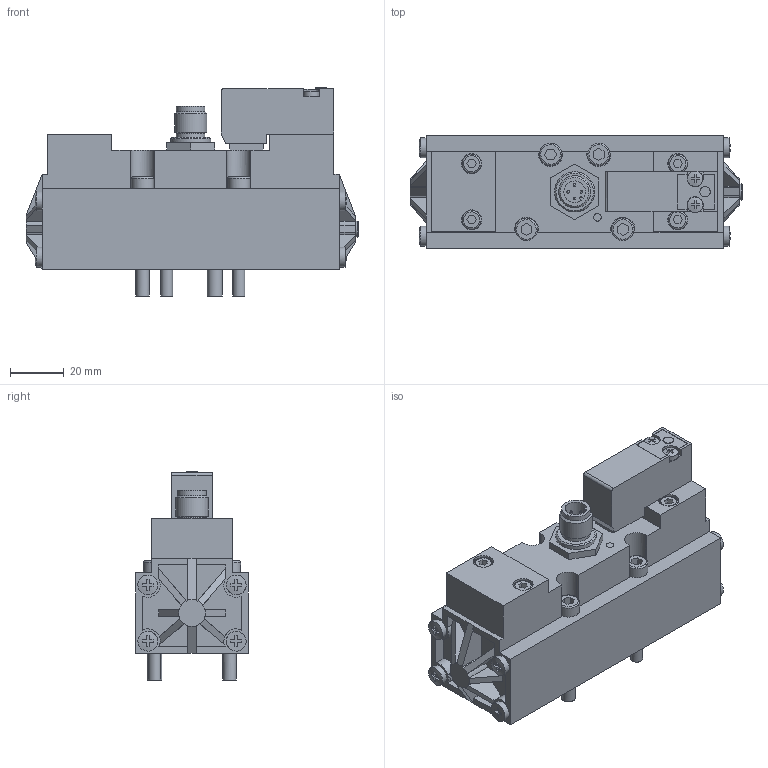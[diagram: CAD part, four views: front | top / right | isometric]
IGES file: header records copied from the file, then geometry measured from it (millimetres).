
Global section: file name: No Iges File Name specified; native system: Autodesk Inventor 2013; preprocessor: AutoDesk Inventor Iges Exporter R2013; author: valotma1; date: 20140318.133629; units: millimetre
Bounding box: 124 x 42 x 77.7 mm (x, y, z)
Volume: 205873.1 mm3; surface area: 35972.9 mm2
Topology: 3 solids, 7 shells, 483 faces, 1252 edges, 832 vertices
Faces by surface type: bspline 483
